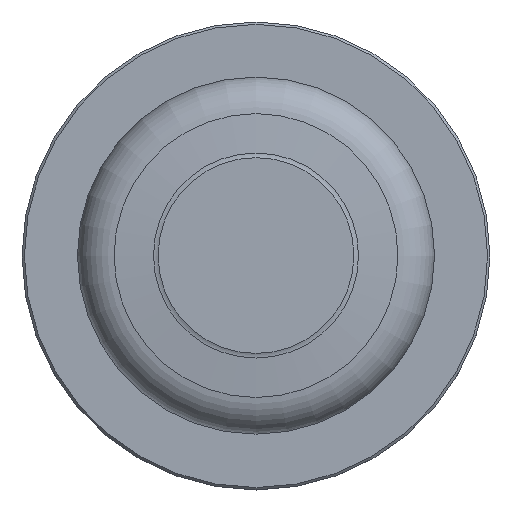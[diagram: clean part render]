
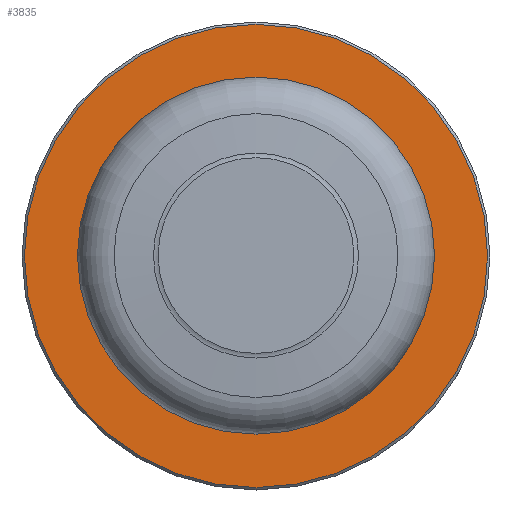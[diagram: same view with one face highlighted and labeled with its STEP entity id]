
A CAD part, top view. The second image highlights one B-rep face of the part: STEP entity #3835.
In plain terms, the highlighted planar face has unit normal (0, 0, 1) as drawn and (0, 1, 0) by its records, which use the part's own axes.
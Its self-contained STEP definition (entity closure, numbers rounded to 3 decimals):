
#3373=FACE_OUTER_BOUND('',#4536,.T.);
#3545=PLANE('',#7251);
#3835=ADVANCED_FACE('AC_MATE2',(#3373),#3545,.F.);
#4536=EDGE_LOOP('',(#5024));
#5024=ORIENTED_EDGE('',*,*,#6468,.T.);
#6072=VERTEX_POINT('',#9346);
#6468=EDGE_CURVE('',#6072,#6072,#6997,.T.);
#6997=CIRCLE('',#7250,24.25);
#7250=AXIS2_PLACEMENT_3D('',#9345,#7894,#7895);
#7251=AXIS2_PLACEMENT_3D('',#9347,#7896,#7897);
#7894=DIRECTION('',(0.,1.,0.));
#7895=DIRECTION('',(1.,0.,0.));
#7896=DIRECTION('',(0.,-1.,0.));
#7897=DIRECTION('',(1.,0.,0.));
#9345=CARTESIAN_POINT('',(0.,14.005,0.));
#9346=CARTESIAN_POINT('',(24.25,14.005,0.));
#9347=CARTESIAN_POINT('',(18.733,14.005,0.));
